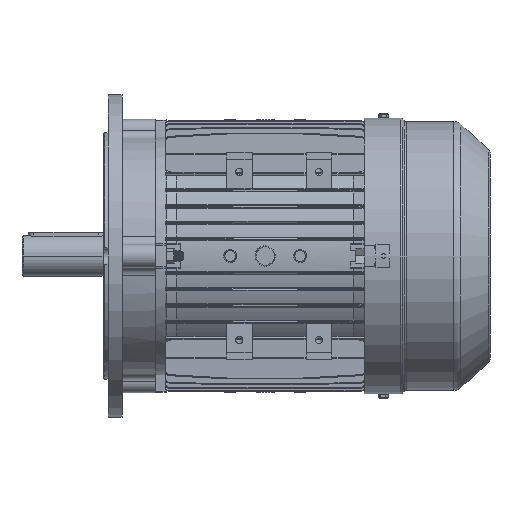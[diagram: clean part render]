
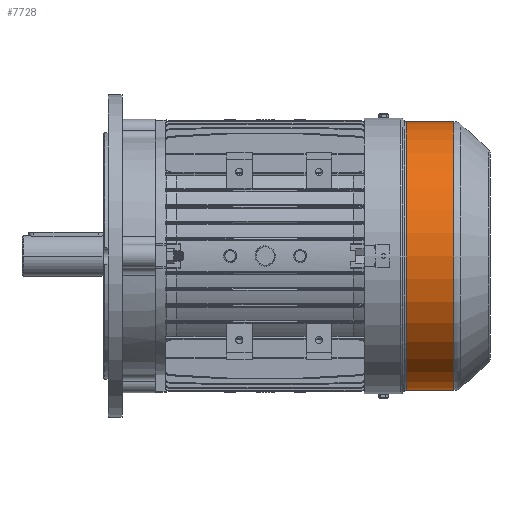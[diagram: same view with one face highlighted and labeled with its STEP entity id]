
A CAD part, front view. The second image highlights one B-rep face of the part: STEP entity #7728.
In plain terms, the highlighted cylindrical face has radius 125 mm (diameter 250 mm), a partial arc.
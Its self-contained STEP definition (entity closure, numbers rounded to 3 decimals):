
#7728 = ADVANCED_FACE ( 'NONE', ( #62178 ), #50045, .T. ) ;
#8867 = DIRECTION ( 'NONE',  ( 0., 0., 1. ) ) ;
#10283 = CIRCLE ( 'NONE', #93742, 125. ) ;
#18390 = LINE ( 'NONE', #141169, #103099 ) ;
#25228 = CARTESIAN_POINT ( 'NONE',  ( -114., 0., 125. ) ) ;
#25392 = EDGE_CURVE ( 'NONE', #126326, #31153, #18390, .T. ) ;
#31153 = VERTEX_POINT ( 'NONE', #139683 ) ;
#33152 = CARTESIAN_POINT ( 'NONE',  ( -114., 0., 0. ) ) ;
#33813 = EDGE_LOOP ( 'NONE', ( #117891, #130931, #123475, #144936 ) ) ;
#37663 = DIRECTION ( 'NONE',  ( 0., 0., -1. ) ) ;
#40339 = VERTEX_POINT ( 'NONE', #120094 ) ;
#48267 = VECTOR ( 'NONE', #115868, 1000. ) ;
#48792 = EDGE_CURVE ( 'NONE', #126326, #71626, #142949, .T. ) ;
#50045 = CYLINDRICAL_SURFACE ( 'NONE', #113354, 125. ) ;
#50376 = LINE ( 'NONE', #25228, #48267 ) ;
#62178 = FACE_OUTER_BOUND ( 'NONE', #33813, .T. ) ;
#64187 = DIRECTION ( 'NONE',  ( -1., 0., 0. ) ) ;
#64734 = CARTESIAN_POINT ( 'NONE',  ( -39.028, 0., 0. ) ) ;
#65300 = DIRECTION ( 'NONE',  ( 0., 0., 1. ) ) ;
#71626 = VERTEX_POINT ( 'NONE', #112145 ) ;
#75935 = DIRECTION ( 'NONE',  ( 1., 0., 0. ) ) ;
#78107 = DIRECTION ( 'NONE',  ( -1., 0., 0. ) ) ;
#79264 = AXIS2_PLACEMENT_3D ( 'NONE', #64734, #64187, #65300 ) ;
#84909 = DIRECTION ( 'NONE',  ( -1., 0., 0. ) ) ;
#90995 = CARTESIAN_POINT ( 'NONE',  ( -39.028, 0., -125. ) ) ;
#93742 = AXIS2_PLACEMENT_3D ( 'NONE', #101331, #75935, #37663 ) ;
#101331 = CARTESIAN_POINT ( 'NONE',  ( -83.139, 0., 0. ) ) ;
#103099 = VECTOR ( 'NONE', #78107, 1000. ) ;
#108839 = EDGE_CURVE ( 'NONE', #71626, #40339, #50376, .T. ) ;
#112145 = CARTESIAN_POINT ( 'NONE',  ( -39.028, 0., 125. ) ) ;
#113354 = AXIS2_PLACEMENT_3D ( 'NONE', #33152, #84909, #8867 ) ;
#115868 = DIRECTION ( 'NONE',  ( -1., 0., 0. ) ) ;
#117891 = ORIENTED_EDGE ( 'NONE', *, *, #25392, .F. ) ;
#120094 = CARTESIAN_POINT ( 'NONE',  ( -83.139, 0., 125. ) ) ;
#123475 = ORIENTED_EDGE ( 'NONE', *, *, #108839, .T. ) ;
#126326 = VERTEX_POINT ( 'NONE', #90995 ) ;
#130931 = ORIENTED_EDGE ( 'NONE', *, *, #48792, .T. ) ;
#139683 = CARTESIAN_POINT ( 'NONE',  ( -83.139, 0., -125. ) ) ;
#141169 = CARTESIAN_POINT ( 'NONE',  ( -114., 0., -125. ) ) ;
#142949 = CIRCLE ( 'NONE', #79264, 125. ) ;
#144936 = ORIENTED_EDGE ( 'NONE', *, *, #155030, .T. ) ;
#155030 = EDGE_CURVE ( 'NONE', #40339, #31153, #10283, .T. ) ;
